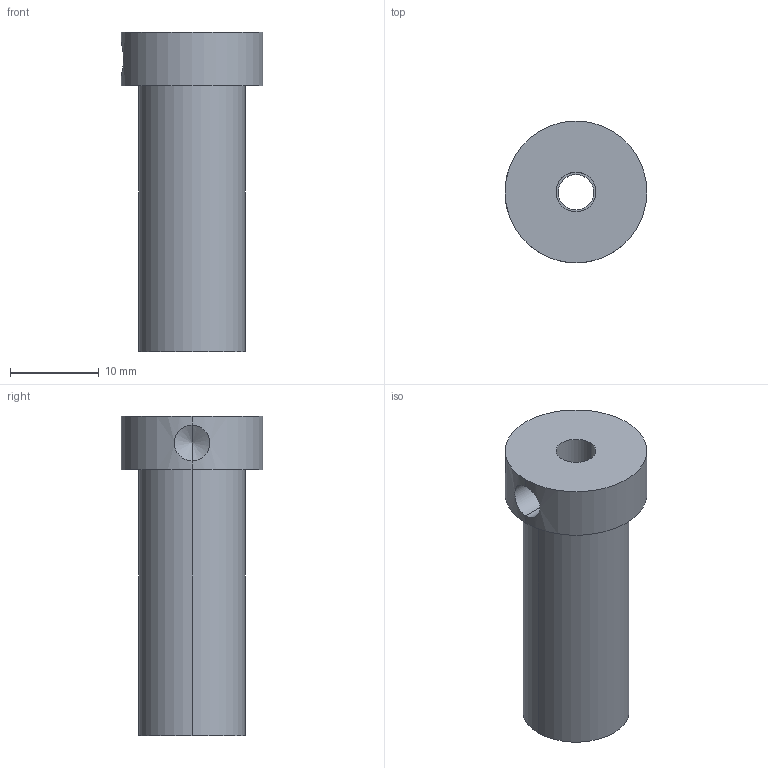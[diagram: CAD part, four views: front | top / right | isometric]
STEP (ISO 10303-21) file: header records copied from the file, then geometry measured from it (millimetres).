
FILE_DESCRIPTION (( 'STEP AP214' ), '1' );
FILE_NAME ('BR53-12x36.STEP', '2020-01-30T11:30:47', ( 'August' ), ( '' ), 'SwSTEP 2.0', 'SolidWorks 2018', '' );
FILE_SCHEMA (( 'AUTOMOTIVE_DESIGN' ));
Length unit declared in the file: millimetre
Products named in the file (1): BR53-12x36
Bounding box: 16 x 16 x 36 mm (x, y, z)
Volume: 4001.8 mm3; surface area: 2364.9 mm2
Topology: 1 solids, 1 shells, 21 faces, 45 edges, 27 vertices
Faces by surface type: cylinder 12, plane 5, cone 4
Entity records: 649 total; most frequent: CARTESIAN_POINT 146, DIRECTION 109, ORIENTED_EDGE 86, AXIS2_PLACEMENT_3D 46, EDGE_CURVE 43, VERTEX_POINT 27, EDGE_LOOP 26, CIRCLE 24
